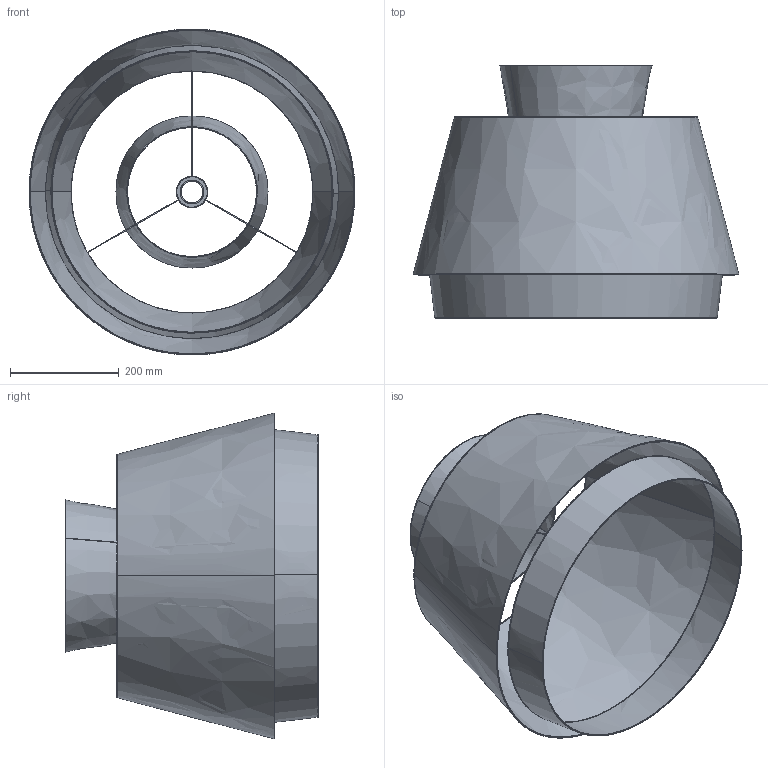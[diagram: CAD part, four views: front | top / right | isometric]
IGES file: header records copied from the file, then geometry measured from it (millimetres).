
Start section: SolidWorks IGES file using analytic representation for surfaces
Global section: file name: C:\Users\a.sempere\Desktop\PANTALLAS\ASPEN-60\ASPEN-C3916-3D.IGS; native system: SolidWorks 2024; preprocessor: SolidWorks 2024; author: a.sempere; date: 250120.085642; units: millimetre
Bounding box: 600 x 464.88 x 600 mm (x, y, z)
Surface area: 1485993.3 mm2 (no closed solid volume)
Topology: 0 solids, 0 shells, 130 faces, 3826 edges, 3823 vertices
Faces by surface type: bspline 86, revolution 44
